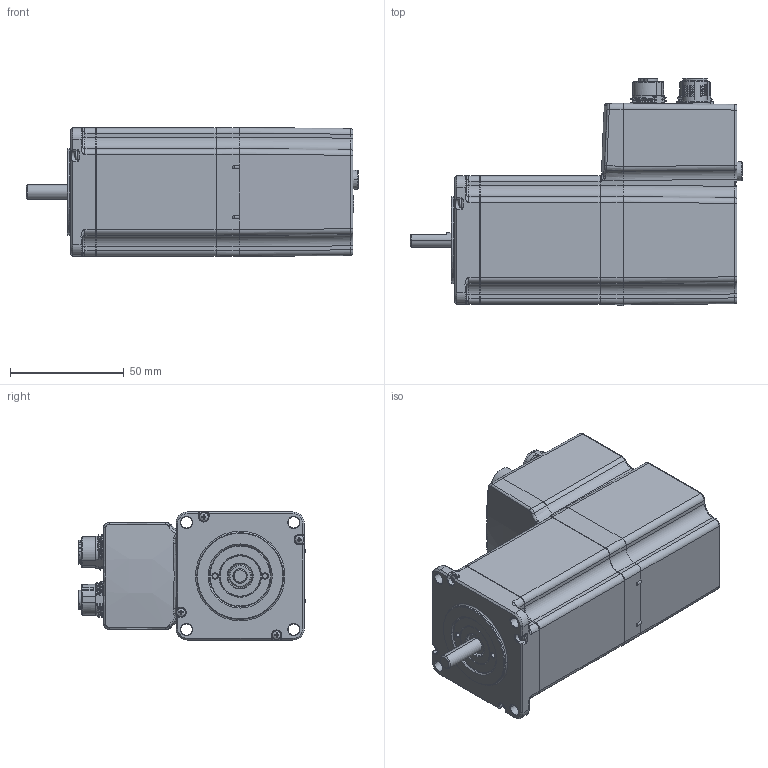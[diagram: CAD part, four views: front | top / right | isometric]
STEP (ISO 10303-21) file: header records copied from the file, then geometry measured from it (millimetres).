
FILE_DESCRIPTION((''),'2;1');
FILE_NAME('STEPPERASSY_ASM','2022-09-25T14:22:54',('Administrator'),(''),'CREO PARAMETRIC BY PTC INC, 2022014','CREO PARAMETRIC BY PTC INC, 2022014','');
FILE_SCHEMA(('AUTOMOTIVE_DESIGN { 1 0 10303 214 1 1 1 1 }'));
Products named in the file (8): FRONT_CAP_1; STATOR; RADIAL_CON; SHAFT_1; LOCK_NUT_1; SEALING_1; FAST_S; STEPPERASSY_ASM
Assembly tree (10 placements, depth 2):
  STEPPERASSY_ASM
    FRONT_CAP_1
    STATOR
    RADIAL_CON
    SHAFT_1
    LOCK_NUT_1
    SEALING_1
    FAST_S  x4
Bounding box: 145.9 x 99.82 x 56.67 mm (x, y, z)
Volume: 443342.5 mm3; surface area: 63098.2 mm2
Topology: 10 solids, 16 shells, 2188 faces, 5579 edges, 3486 vertices
Faces by surface type: plane 793, cylinder 610, bspline 362, cone 208, torus 181, sphere 32, extrusion 2
Entity records: 122700 total; most frequent: CARTESIAN_POINT 47135, ORIENTED_EDGE 10498, DIRECTION 9584, PRESENTATION_STYLE_ASSIGNMENT 5737, EDGE_CURVE 5251, STYLED_ITEM 4996, CURVE_STYLE 4793, AXIS2_PLACEMENT_3D 3578
